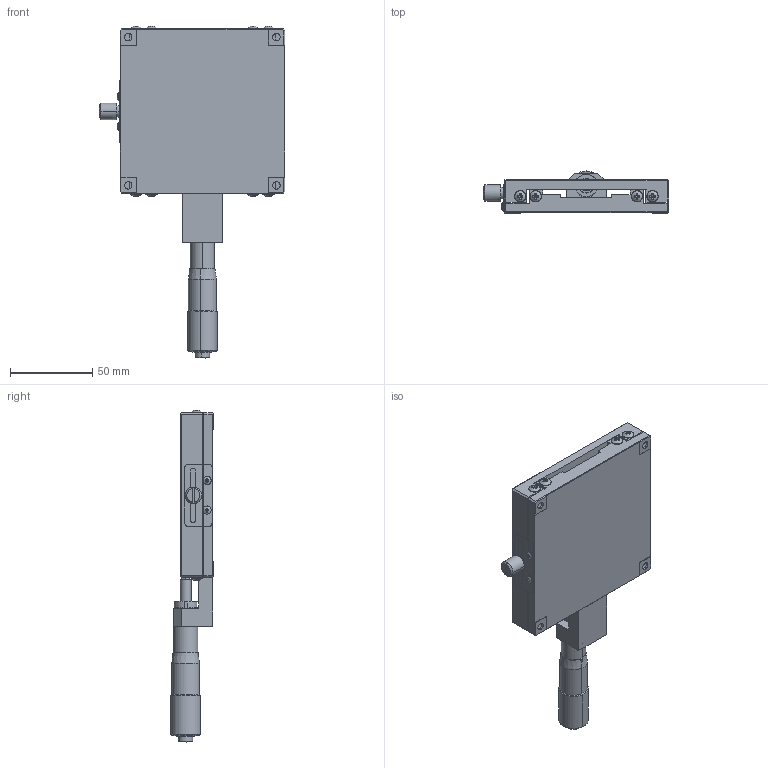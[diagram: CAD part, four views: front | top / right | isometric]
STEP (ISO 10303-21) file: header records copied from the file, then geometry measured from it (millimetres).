
FILE_DESCRIPTION (( 'STEP AP203' ), '1' );
FILE_NAME ('LX100-C.STEP', '2013-12-21T07:09:49', ( 'pengyu' ), ( '' ), 'SwSTEP 2.0', 'SolidWorks 2011', '' );
FILE_SCHEMA (( 'CONFIG_CONTROL_DESIGN' ));
Length unit declared in the file: millimetre
Products named in the file (4): LX100-C; MT25-4-1; L100C-2; L100C-1
Assembly tree (3 placements, depth 2):
  LX100-C
    L100C-1
    L100C-2
    MT25-4-1
Bounding box: 112.6 x 25.7 x 201.66 mm (x, y, z)
Volume: 189978.4 mm3; surface area: 67396.5 mm2
Topology: 3 solids, 11 shells, 594 faces, 1506 edges, 935 vertices
Faces by surface type: plane 329, cylinder 128, cone 101, bspline 36
Entity records: 18965 total; most frequent: CARTESIAN_POINT 4473, ORIENTED_EDGE 2936, DIRECTION 2935, EDGE_CURVE 1468, AXIS2_PLACEMENT_3D 1101, VERTEX_POINT 935, VECTOR 733, LINE 733
